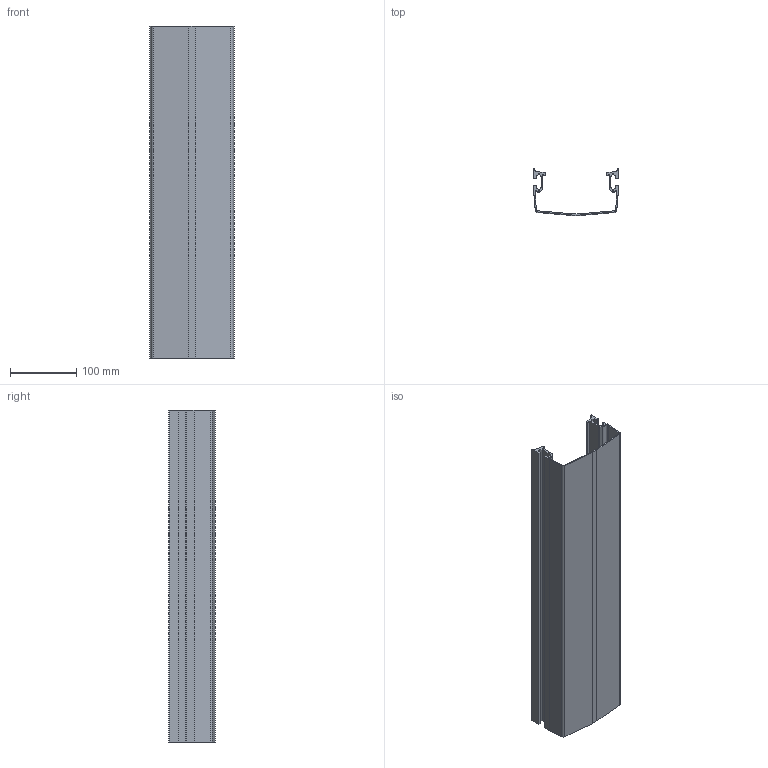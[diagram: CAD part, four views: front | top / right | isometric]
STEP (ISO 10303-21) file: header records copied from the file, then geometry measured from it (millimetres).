
FILE_DESCRIPTION (( 'STEP AP214' ), '1' );
FILE_NAME ('FMDT 3x127B.STEP', '2011-06-30T09:27:47', ( '.' ), ( '' ), 'SwSTEP 2.0', 'SolidWorks 2010', '' );
FILE_SCHEMA (( 'AUTOMOTIVE_DESIGN' ));
Length unit declared in the file: millimetre
Products named in the file (1): FMDT 3x127B
Bounding box: 127 x 70.24 x 500 mm (x, y, z)
Volume: 377519.2 mm3; surface area: 317796.7 mm2
Topology: 1 solids, 1 shells, 97 faces, 285 edges, 190 vertices
Faces by surface type: plane 53, cylinder 44
Entity records: 3281 total; most frequent: CARTESIAN_POINT 573, ORIENTED_EDGE 570, DIRECTION 569, EDGE_CURVE 285, VECTOR 197, LINE 197, VERTEX_POINT 190, AXIS2_PLACEMENT_3D 186
